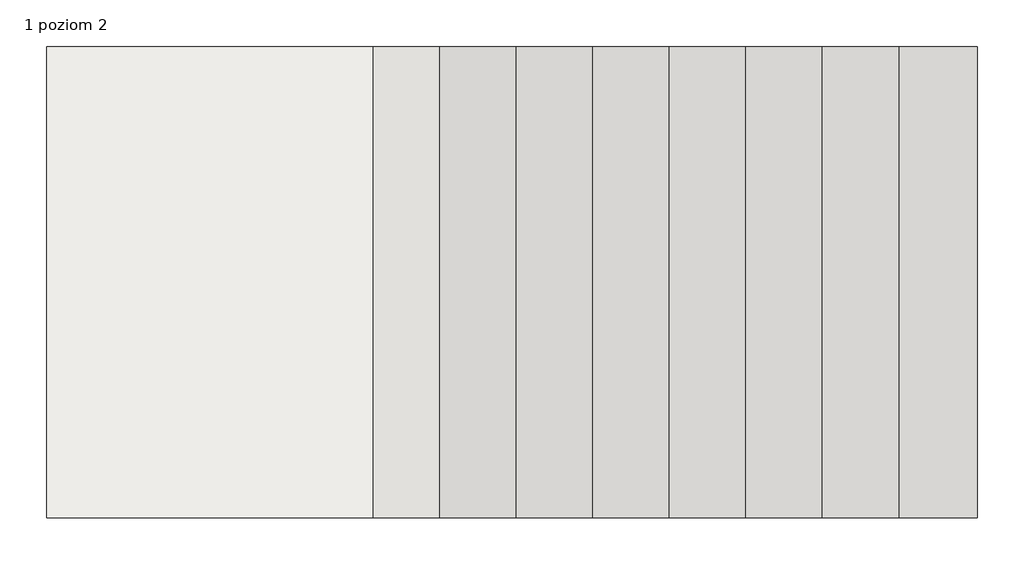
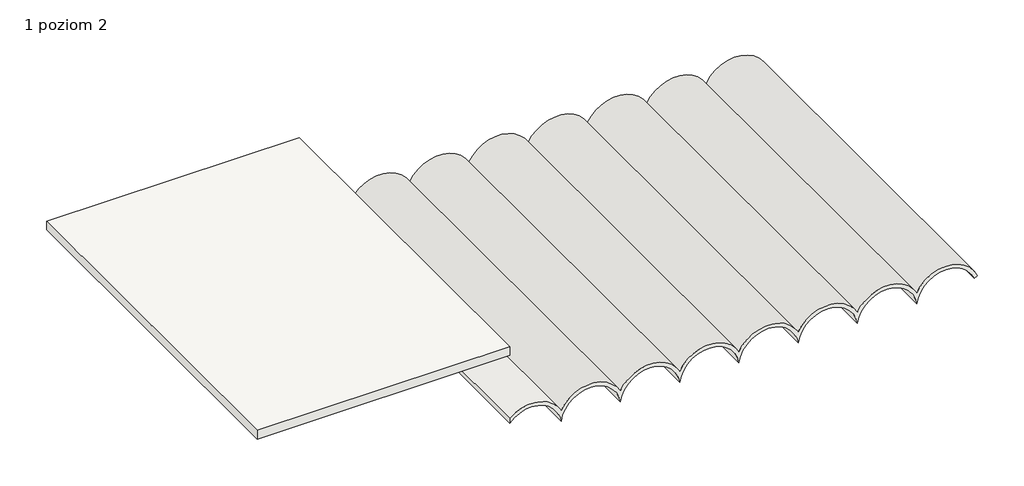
# One storey: 1 roof, 1 slab.
"""IFC4 building model written with IfcOpenShell, lengths in millimetres."""

from ifc_helpers import new_model, si_unit, point, frame, frame_2d, origin, place, context, project, spatial, polyline, circle_curve, trimmed, segment, composite_curve, outline, extrude, element, save

model = new_model("IFC4")

# Units and contexts
model_context = context("Model", 3, world=origin())
ifc_project = project(units=[si_unit("LENGTHUNIT", "METRE", prefix="MILLI")], contexts=[model_context])

# Site, building, storey
site = spatial("IfcSite", under=ifc_project)
building = spatial("IfcBuilding", under=site)
storey = spatial("IfcBuildingStorey", under=building, Name="1 poziom 2", Elevation=12660.0)

# Roof
placement = place(None, origin())
element("IfcRoof", 1, ObjectType="dach 20 cm", at=placement, inside=storey, context=model_context, shape_type="SweptSolid", body=[
    extrude(outline(composite_curve([segment(polyline([(8524.2594892, 131853.8729089), (8248.7943053, 131853.8729089)]), True, "CONTINUOUS"), segment(trimmed(circle_curve(frame_2d((7124.0013694, 133045.8729089)), 1638.9091337), [point((8248.7943053, 131853.8729089))], [point((7351.8042415, 134668.8729089))], True, "CARTESIAN"), True, "CONTINUOUS"), segment(trimmed(circle_curve(frame_2d((7124.0013694, 136291.8729089)), 1638.9091337), [point((7351.8042415, 134668.8729089))], [point((7351.8042415, 137914.8729089))], True, "CARTESIAN"), True, "CONTINUOUS"), segment(trimmed(circle_curve(frame_2d((7124.0013694, 139537.8729089)), 1638.9091337), [point((7351.8042415, 137914.8729089))], [point((7351.8042415, 141160.8729089))], True, "CARTESIAN"), True, "CONTINUOUS"), segment(trimmed(circle_curve(frame_2d((7124.0013694, 142783.8729089)), 1638.9091337), [point((7351.8042415, 141160.8729089))], [point((7351.8042415, 144406.8729089))], True, "CARTESIAN"), True, "CONTINUOUS"), segment(trimmed(circle_curve(frame_2d((7124.0013694, 146029.8729089)), 1638.9091337), [point((7351.8042415, 144406.8729089))], [point((7351.8042415, 147652.8729089))], True, "CARTESIAN"), True, "CONTINUOUS"), segment(trimmed(circle_curve(frame_2d((7124.0013694, 149275.8729089)), 1638.9091337), [point((7351.8042415, 147652.8729089))], [point((7351.8042415, 150898.8729089))], True, "CARTESIAN"), True, "CONTINUOUS"), segment(trimmed(circle_curve(frame_2d((7124.0013694, 152521.8729089)), 1638.9091337), [point((7351.8042415, 150898.8729089))], [point((7351.8042415, 154144.8729089))], True, "CARTESIAN"), True, "CONTINUOUS"), segment(trimmed(circle_curve(frame_2d((7124.0013694, 155767.8729089)), 1638.9091337), [point((7351.8042415, 154144.8729089))], [point((7726.4782997, 157292.0266731))], True, "CARTESIAN"), True, "CONTINUOUS"), segment(polyline([(7726.4782997, 157292.0266731), (7800.0, 157478.022801)]), True, "CONTINUOUS"), segment(trimmed(circle_curve(frame_2d((7124.0013694, 155767.8729089)), 1838.9091337), [point((7800.0, 157478.022801))], [point((7988.5577887, 154144.8729089))], False, "CARTESIAN"), True, "CONTINUOUS"), segment(trimmed(circle_curve(frame_2d((7124.0013694, 152521.8729089)), 1838.9091337), [point((7988.5577887, 154144.8729089))], [point((7988.5577887, 150898.8729089))], False, "CARTESIAN"), True, "CONTINUOUS"), segment(trimmed(circle_curve(frame_2d((7124.0013694, 149275.8729089)), 1838.9091337), [point((7988.5577887, 150898.8729089))], [point((7988.5577887, 147652.8729089))], False, "CARTESIAN"), True, "CONTINUOUS"), segment(trimmed(circle_curve(frame_2d((7124.0013694, 146029.8729089)), 1838.9091337), [point((7988.5577887, 147652.8729089))], [point((7988.5577887, 144406.8729089))], False, "CARTESIAN"), True, "CONTINUOUS"), segment(trimmed(circle_curve(frame_2d((7124.0013694, 142783.8729089)), 1838.9091337), [point((7988.5577887, 144406.8729089))], [point((7988.5577887, 141160.8729089))], False, "CARTESIAN"), True, "CONTINUOUS"), segment(trimmed(circle_curve(frame_2d((7124.0013694, 139537.8729089)), 1838.9091337), [point((7988.5577887, 141160.8729089))], [point((7988.5577887, 137914.8729089))], False, "CARTESIAN"), True, "CONTINUOUS"), segment(trimmed(circle_curve(frame_2d((7124.0013694, 136291.8729089)), 1838.9091337), [point((7988.5577887, 137914.8729089))], [point((7988.5577887, 134668.8729089))], False, "CARTESIAN"), True, "CONTINUOUS"), segment(trimmed(circle_curve(frame_2d((7124.0013694, 133045.8729089)), 1838.9091337), [point((7988.5577887, 134668.8729089))], [point((8524.2594892, 131853.8729089))], False, "CARTESIAN"), True, "CONTINUOUS")], self_intersect=False)), frame((0.0, 47475.8005963, 0.0), z_axis=(0.0, 1.0, 0.0), x_axis=(0.0, 0.0, 1.0)), (0.0, 0.0, 1.0), 19980.0),
])

# Slab
element("IfcSlab", 2, ObjectType="Strop 50 cm", at=placement, inside=storey, context=model_context, shape_type="SweptSolid", body=[
    extrude(outline(polyline([(118023.8729089, 67455.8005963), (131853.8729089, 67455.8005963), (131853.8729089, 47475.8005963), (118023.8729089, 47475.8005963), (118023.8729089, 67455.8005963)])), frame((0.0, 0.0, 12160.0), z_axis=(0.0, 0.0, 1.0), x_axis=(1.0, 0.0, 0.0)), (0.0, 0.0, 1.0), 500.0),
])

save(model, "model.ifc")
